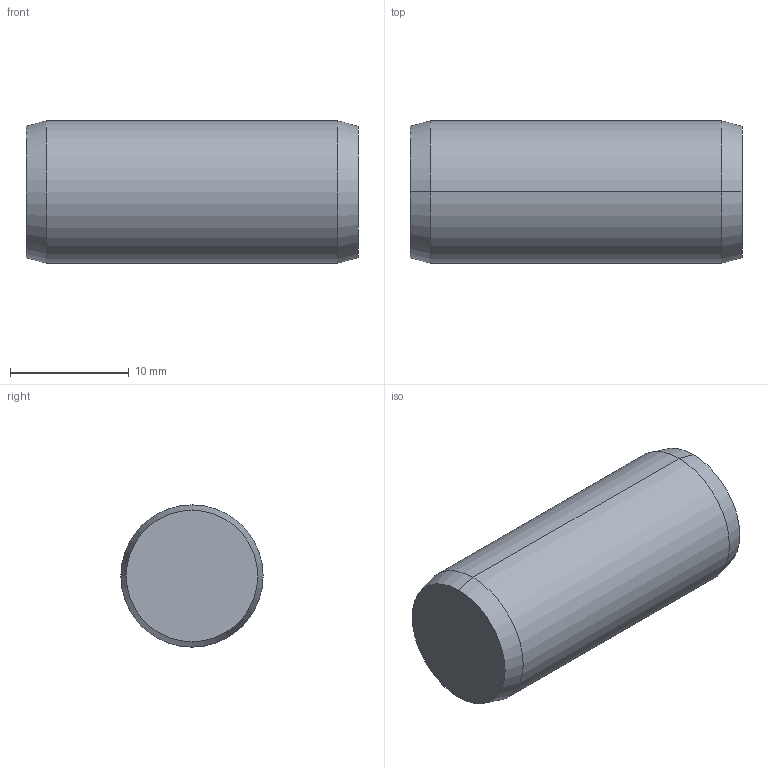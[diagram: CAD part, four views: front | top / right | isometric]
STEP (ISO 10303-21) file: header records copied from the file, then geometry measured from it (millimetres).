
FILE_DESCRIPTION (( 'STEP AP203' ), '1' );
FILE_NAME ('P1206.120-028.step', '2017-06-14T08:37:22', ( 'User' ), ( '' ), 'SwSTEP 2.0', 'SolidWorks 2009', '' );
FILE_SCHEMA (( 'CONFIG_CONTROL_DESIGN' ));
Length unit declared in the file: millimetre
Products named in the file (1): P1206.120-028
Bounding box: 28 x 12 x 12 mm (x, y, z)
Volume: 3138.3 mm3; surface area: 1248.2 mm2
Topology: 1 solids, 1 shells, 8 faces, 14 edges, 8 vertices
Faces by surface type: cone 4, cylinder 2, plane 2
Entity records: 271 total; most frequent: DIRECTION 40, CARTESIAN_POINT 31, ORIENTED_EDGE 28, AXIS2_PLACEMENT_3D 17, EDGE_CURVE 14, PERSON_AND_ORGANIZATION 8, ADVANCED_FACE 8, EDGE_LOOP 8
